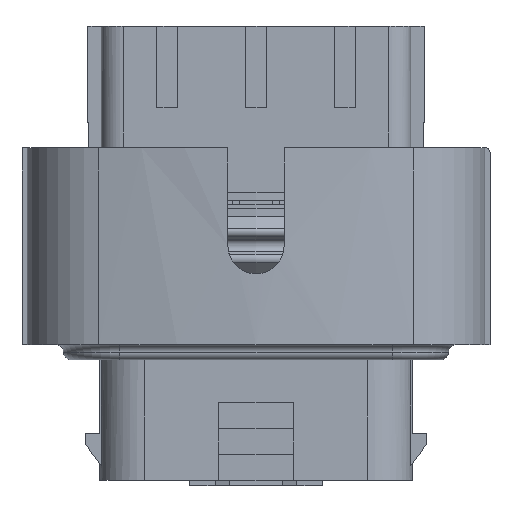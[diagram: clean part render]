
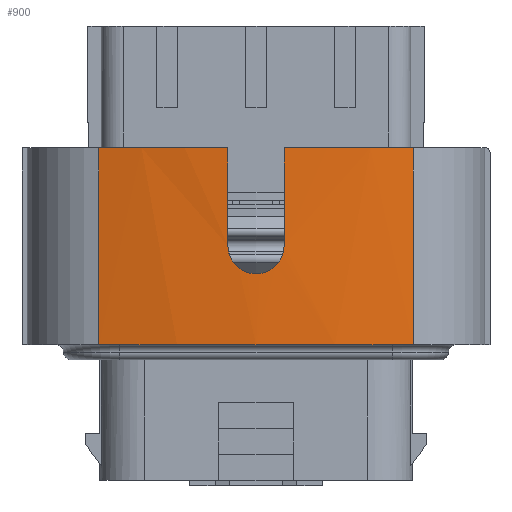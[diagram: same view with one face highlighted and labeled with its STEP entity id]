
A CAD part, front view. The second image highlights one B-rep face of the part: STEP entity #900.
In plain terms, the highlighted cylindrical face has radius 48.62 mm (diameter 97.24 mm), a partial arc.
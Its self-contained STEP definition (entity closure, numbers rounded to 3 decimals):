
#42=B_SPLINE_CURVE_WITH_KNOTS('',3,(#14992,#14993,#14994,#14995,#14996,
#14997,#14998,#14999,#15000,#15001),.UNSPECIFIED.,.F.,.F.,(4,2,2,2,4),(0.,
0.25,0.5,0.75,1.),.UNSPECIFIED.);
#130=CYLINDRICAL_SURFACE('',#10468,48.62);
#389=FACE_OUTER_BOUND('',#1787,.T.);
#900=ADVANCED_FACE('',(#389),#130,.T.);
#1787=EDGE_LOOP('',(#3356,#3357,#3358,#3359,#3360,#3361,#3362,#3363));
#2309=CIRCLE('',#10465,48.62);
#2310=CIRCLE('',#10466,48.62);
#2311=CIRCLE('',#10467,48.62);
#3356=ORIENTED_EDGE('',*,*,#6970,.T.);
#3357=ORIENTED_EDGE('',*,*,#6971,.T.);
#3358=ORIENTED_EDGE('',*,*,#6968,.T.);
#3359=ORIENTED_EDGE('',*,*,#6972,.F.);
#3360=ORIENTED_EDGE('',*,*,#6973,.F.);
#3361=ORIENTED_EDGE('',*,*,#6974,.T.);
#3362=ORIENTED_EDGE('',*,*,#6975,.F.);
#3363=ORIENTED_EDGE('',*,*,#6976,.T.);
#5859=VERTEX_POINT('',#14975);
#5860=VERTEX_POINT('',#14977);
#5861=VERTEX_POINT('',#14981);
#5862=VERTEX_POINT('',#14982);
#5863=VERTEX_POINT('',#14985);
#5864=VERTEX_POINT('',#14987);
#5865=VERTEX_POINT('',#14989);
#5866=VERTEX_POINT('',#14991);
#6968=EDGE_CURVE('',#5860,#5859,#8298,.T.);
#6970=EDGE_CURVE('',#5861,#5862,#8299,.T.);
#6971=EDGE_CURVE('',#5862,#5860,#2309,.T.);
#6972=EDGE_CURVE('',#5863,#5859,#2310,.T.);
#6973=EDGE_CURVE('',#5864,#5863,#8300,.T.);
#6974=EDGE_CURVE('',#5864,#5865,#2311,.T.);
#6975=EDGE_CURVE('',#5866,#5865,#8301,.T.);
#6976=EDGE_CURVE('',#5866,#5861,#42,.T.);
#8298=LINE('',#14976,#9413);
#8299=LINE('',#14980,#9414);
#8300=LINE('',#14986,#9415);
#8301=LINE('',#14990,#9416);
#9413=VECTOR('',#12024,1.);
#9414=VECTOR('',#12029,1.);
#9415=VECTOR('',#12034,1.);
#9416=VECTOR('',#12037,1.);
#10465=AXIS2_PLACEMENT_3D('',#14983,#12030,#12031);
#10466=AXIS2_PLACEMENT_3D('',#14984,#12032,#12033);
#10467=AXIS2_PLACEMENT_3D('',#14988,#12035,#12036);
#10468=AXIS2_PLACEMENT_3D('',#15002,#12038,#12039);
#12024=DIRECTION('',(0.,0.,-1.));
#12029=DIRECTION('',(0.,0.,1.));
#12030=DIRECTION('',(0.,0.,-1.));
#12031=DIRECTION('',(1.,0.,0.));
#12032=DIRECTION('',(0.,0.,-1.));
#12033=DIRECTION('',(-1.,0.,0.));
#12034=DIRECTION('',(0.,0.,-1.));
#12035=DIRECTION('',(0.,0.,-1.));
#12036=DIRECTION('',(1.,0.,0.));
#12037=DIRECTION('',(0.,0.,1.));
#12038=DIRECTION('',(0.,0.,1.));
#12039=DIRECTION('',(-0.219,-0.976,0.));
#14975=CARTESIAN_POINT('',(-10.602,-7.78,-1.2));
#14976=CARTESIAN_POINT('',(-10.602,-7.78,11.8));
#14977=CARTESIAN_POINT('',(-10.602,-7.78,12.1));
#14980=CARTESIAN_POINT('',(-1.9,-8.913,5.5));
#14981=CARTESIAN_POINT('',(-1.9,-8.913,5.5));
#14982=CARTESIAN_POINT('',(-1.9,-8.913,12.1));
#14983=CARTESIAN_POINT('',(0.,39.67,12.1));
#14984=CARTESIAN_POINT('',(0.,39.67,-1.2));
#14985=CARTESIAN_POINT('',(10.602,-7.78,-1.2));
#14986=CARTESIAN_POINT('',(10.602,-7.78,11.8));
#14987=CARTESIAN_POINT('',(10.602,-7.78,12.1));
#14988=CARTESIAN_POINT('',(0.,39.67,12.1));
#14989=CARTESIAN_POINT('',(1.9,-8.913,12.1));
#14990=CARTESIAN_POINT('',(1.9,-8.913,5.5));
#14991=CARTESIAN_POINT('',(1.9,-8.913,5.5));
#14992=CARTESIAN_POINT('',(1.9,-8.913,5.5));
#14993=CARTESIAN_POINT('',(1.9,-8.913,5.013));
#14994=CARTESIAN_POINT('',(1.697,-8.922,4.511));
#14995=CARTESIAN_POINT('',(0.995,-8.941,3.807));
#14996=CARTESIAN_POINT('',(0.499,-8.95,3.6));
#14997=CARTESIAN_POINT('',(-0.499,-8.95,3.6));
#14998=CARTESIAN_POINT('',(-0.995,-8.941,3.807));
#14999=CARTESIAN_POINT('',(-1.697,-8.922,4.511));
#15000=CARTESIAN_POINT('',(-1.9,-8.913,5.029));
#15001=CARTESIAN_POINT('',(-1.9,-8.913,5.5));
#15002=CARTESIAN_POINT('',(0.,39.67,-0.75));
